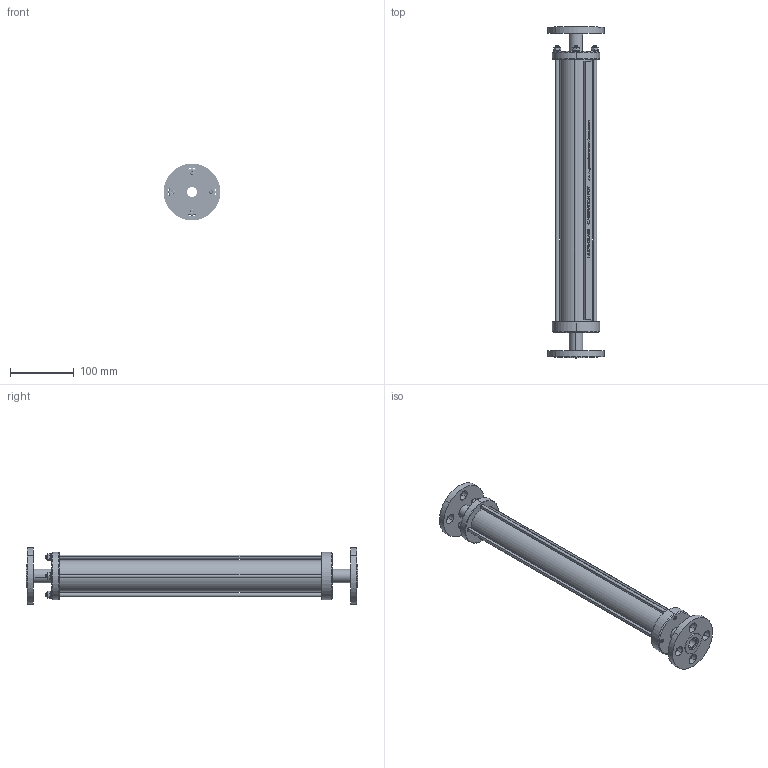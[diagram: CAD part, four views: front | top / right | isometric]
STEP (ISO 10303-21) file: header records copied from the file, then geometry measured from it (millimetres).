
FILE_DESCRIPTION (( 'STEP AP214' ), '1' );
FILE_NAME ('0.5LTR-C-44-34.STEP', '2025-11-05T15:41:43', ( '' ), ( '' ), 'SwSTEP 2.0', 'SolidWorks 2024', '' );
FILE_SCHEMA (( 'AUTOMOTIVE_DESIGN' ));
Length unit declared in the file: millimetre
Products named in the file (1): 0.5LTR-C-44-34
Bounding box: 88.56 x 521 x 88.56 mm (x, y, z)
Volume: 498011.5 mm3; surface area: 247334.9 mm2
Topology: 20 solids, 20 shells, 1498 faces, 3882 edges, 2504 vertices
Faces by surface type: cylinder 516, plane 463, bspline 343, cone 88, sphere 72, torus 16
Entity records: 106104 total; most frequent: CARTESIAN_POINT 57220, ORIENTED_EDGE 7764, DIRECTION 5220, EDGE_CURVE 3882, VERTEX_POINT 2504, VECTOR 1808, LINE 1808, AXIS2_PLACEMENT_3D 1706
